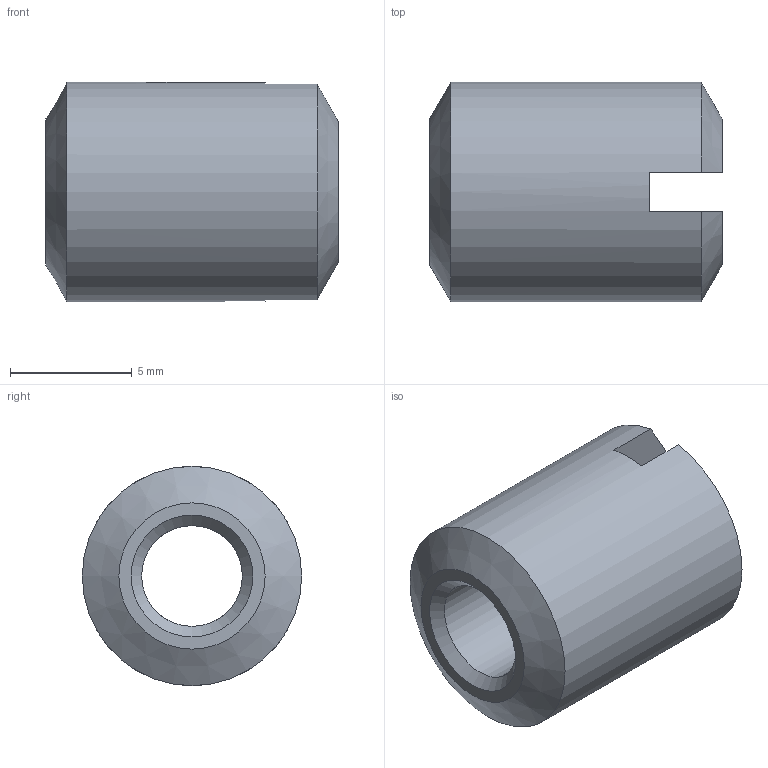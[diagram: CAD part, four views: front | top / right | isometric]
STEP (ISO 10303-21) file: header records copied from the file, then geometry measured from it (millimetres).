
FILE_DESCRIPTION(/* description */ ('BN 242-Self-cutting threaded inserts for wood and soft plastics (Ensat® 309), plain'),/* implementation_level */ '2;1');
FILE_NAME(/* name */ 'C:\Users\CAD2\Desktop\Nuova cartella\309.0030.80.stp',/* time_stamp */ '2015-05-18T16:56:45+02:00',/* author */ ('CAD2'),/* organization */ ('BOSSARD'),/* preprocessor_version */ 'ST-DEVELOPER v15.2',/* originating_system */ 'Autodesk Inventor 2014',/* authorisation */ '');
FILE_SCHEMA (('CONFIG_CONTROL_DESIGN'));
Length unit declared in the file: millimetre
Products named in the file (1): 309.0030.80
Bounding box: 12 x 9 x 9 mm (x, y, z)
Volume: 545.8 mm3; surface area: 562 mm2
Topology: 1 solids, 1 shells, 17 faces, 46 edges, 30 vertices
Faces by surface type: plane 9, cone 6, cylinder 2
Full cylindrical faces by diameter (mm): 4.134 x1, 9 x1
Entity records: 522 total; most frequent: CARTESIAN_POINT 102, DIRECTION 84, ORIENTED_EDGE 80, EDGE_CURVE 40, AXIS2_PLACEMENT_3D 34, VERTEX_POINT 28, EDGE_LOOP 22, ADVANCED_FACE 17
